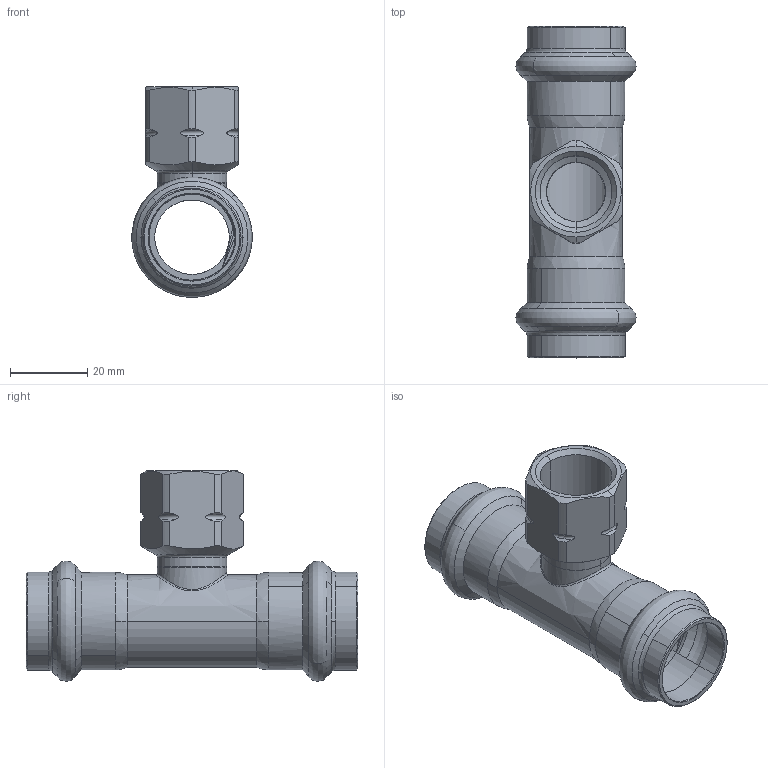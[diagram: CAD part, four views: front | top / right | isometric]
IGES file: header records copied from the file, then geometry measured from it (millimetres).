
Start section: Elysium IGES Interface
Global section: file name: C:\3d modellen sudo\C-Pr VP\SP8130GV\8130GVW221222.igs; native system: CoCreate Modeling 17.00A  17-Jun-2010; preprocessor: CoCreate IGES_3D V2.2; author: Unknown; organization: Unknown; date: 20130205.102331; units: millimetre
Bounding box: 31.19 x 86.01 x 54.59 mm (x, y, z)
Volume: 17268.9 mm3; surface area: 17389.8 mm2
Topology: 1 solids, 1 shells, 137 faces, 358 edges, 226 vertices
Faces by surface type: bspline 137
